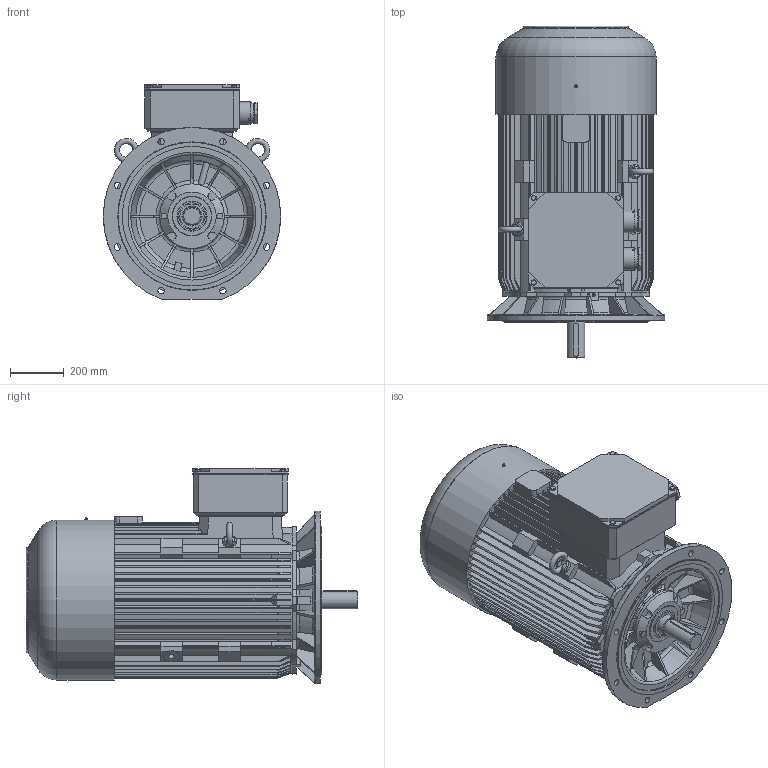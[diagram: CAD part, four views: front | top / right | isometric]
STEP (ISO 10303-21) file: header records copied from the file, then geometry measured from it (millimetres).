
FILE_DESCRIPTION( ( 'Unknown' ), '1' );
FILE_NAME( 'P:/3D_Bry³y silników skatalogowane/SIE/2SIE315/STP_2SIE315/2SIEK315_2.stp', 'Unknown', ( 'Unknown' ), ( 'Unknown' ), 'XStep 1.0', 'Unknown', ' ' );
FILE_SCHEMA( ( 'CONFIG_CONTROL_DESIGN' ) );
Length unit declared in the file: millimetre
Products named in the file (2): 1; 2
Bounding box: 660 x 1235 x 799.5 mm (x, y, z)
Volume: 269846826.8 mm3; surface area: 6571007.5 mm2
Topology: 2 solids, 17 shells, 1399 faces, 3770 edges, 2456 vertices
Faces by surface type: plane 838, cylinder 291, cone 147, torus 107, bspline 16
Full cylindrical faces by diameter (mm): 1.6 x2, 5 x4, 10.106 x4, 13.835 x1, 16.63 x4, 20.752 x2, 24 x8, 36 x1, 50 x2, 55 x2, 57 x4, 65 x5, 70 x2, 71 x6, 72 x2, 72.752 x2, 74.5 x1, 76 x2, 85 x2, 90 x1, 98.8 x1, 99.4 x1, 100 x1, 111.399 x1, 112 x1, 119.4 x1, 119.999 x1, 131.399 x1, 132 x1, 139.4 x1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
Entity records: 54159 total; most frequent: CARTESIAN_POINT 20070, ORIENTED_EDGE 7156, DIRECTION 6836, EDGE_CURVE 3578, AXIS2_PLACEMENT_3D 2417, VERTEX_POINT 2402, LINE 2002, VECTOR 2002
